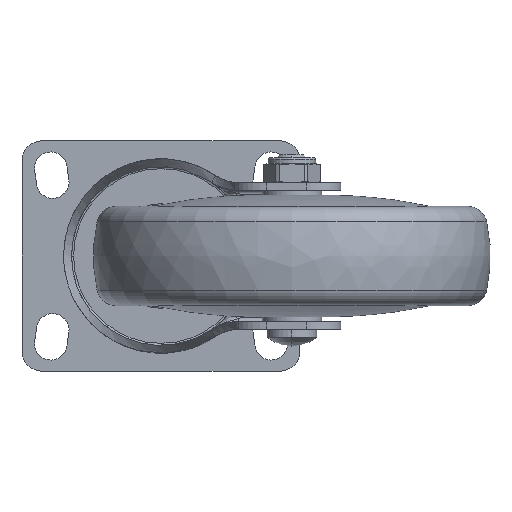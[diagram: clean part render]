
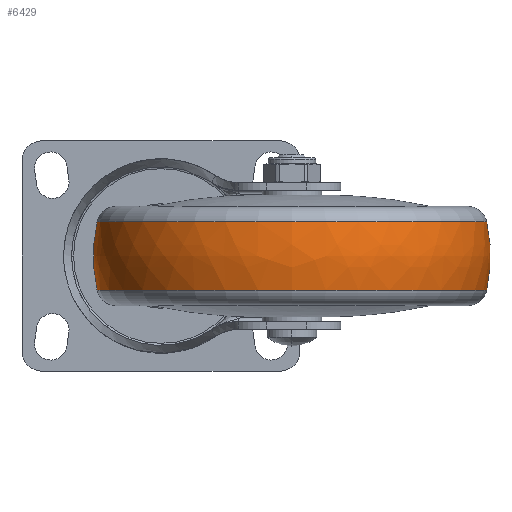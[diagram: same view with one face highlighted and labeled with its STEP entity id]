
A CAD part, front view. The second image highlights one B-rep face of the part: STEP entity #6429.
In plain terms, the highlighted free-form (B-spline) face has degree [3, 3] with [7, 4] control points.
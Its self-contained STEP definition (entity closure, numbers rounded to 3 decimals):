
#4643=CARTESIAN_POINT('',(-59.886,21.377,0.));
#4644=DIRECTION('',(-1.,0.,0.));
#4645=DIRECTION('',(0.,1.,0.));
#4646=AXIS2_PLACEMENT_3D('',#4643,#4644,#4645);
#4648=CARTESIAN_POINT('',(-68.457,31.377,0.));
#4649=DIRECTION('',(0.,0.,1.));
#4650=DIRECTION('',(0.214,0.977,0.));
#4651=AXIS2_PLACEMENT_3D('',#4648,#4649,#4650);
#4658=CARTESIAN_POINT('',(-68.457,11.377,0.));
#4659=DIRECTION('',(0.,0.,-1.));
#4660=DIRECTION('',(0.214,-0.977,0.));
#4661=AXIS2_PLACEMENT_3D('',#4658,#4659,#4660);
#4678=CARTESIAN_POINT('',(-77.029,21.377,0.));
#4679=DIRECTION('',(-1.,0.,0.));
#4680=DIRECTION('',(0.,1.,0.));
#4681=AXIS2_PLACEMENT_3D('',#4678,#4679,#4680);
#6313=CARTESIAN_POINT('',(-59.886,70.448,0.));
#6314=CARTESIAN_POINT('',(-77.029,70.448,0.));
#6315=VERTEX_POINT('',#6313);
#6316=VERTEX_POINT('',#6314);
#6321=CARTESIAN_POINT('',(-59.886,-27.694,
0.));
#6322=CARTESIAN_POINT('',(-77.029,-27.694,
0.));
#6323=VERTEX_POINT('',#6321);
#6324=VERTEX_POINT('',#6322);
#6391=CARTESIAN_POINT('',(-59.548,70.276,3.076));
#6392=CARTESIAN_POINT('',(-65.437,71.618,3.161));
#6393=CARTESIAN_POINT('',(-71.477,71.618,3.161));
#6394=CARTESIAN_POINT('',(-77.366,70.276,3.076));
#6395=CARTESIAN_POINT('',(-59.548,72.169,
-27.016));
#6396=CARTESIAN_POINT('',(-65.437,73.563,
-27.757));
#6397=CARTESIAN_POINT('',(-71.477,73.563,
-27.757));
#6398=CARTESIAN_POINT('',(-77.366,72.169,
-27.016));
#6399=CARTESIAN_POINT('',(-59.548,51.529,
-48.995));
#6400=CARTESIAN_POINT('',(-65.437,52.356,
-50.341));
#6401=CARTESIAN_POINT('',(-71.477,52.356,
-50.341));
#6402=CARTESIAN_POINT('',(-77.366,51.529,
-48.995));
#6403=CARTESIAN_POINT('',(-59.548,21.377,
-48.995));
#6404=CARTESIAN_POINT('',(-65.437,21.377,
-50.341));
#6405=CARTESIAN_POINT('',(-71.477,21.377,
-50.341));
#6406=CARTESIAN_POINT('',(-77.366,21.377,
-48.995));
#6407=CARTESIAN_POINT('',(-59.548,-8.775,
-48.995));
#6408=CARTESIAN_POINT('',(-65.437,-9.603,
-50.341));
#6409=CARTESIAN_POINT('',(-71.477,-9.603,
-50.341));
#6410=CARTESIAN_POINT('',(-77.366,-8.775,
-48.995));
#6411=CARTESIAN_POINT('',(-59.548,-29.415,
-27.016));
#6412=CARTESIAN_POINT('',(-65.437,-30.81,
-27.757));
#6413=CARTESIAN_POINT('',(-71.477,-30.81,
-27.757));
#6414=CARTESIAN_POINT('',(-77.366,-29.415,
-27.016));
#6415=CARTESIAN_POINT('',(-59.548,-27.522,
3.076));
#6416=CARTESIAN_POINT('',(-65.437,-28.864,
3.161));
#6417=CARTESIAN_POINT('',(-71.477,-28.864,
3.161));
#6418=CARTESIAN_POINT('',(-77.366,-27.522,
3.076));
#6419=(BOUNDED_SURFACE()B_SPLINE_SURFACE(3,3,((#6391,#6392,#6393,#6394),(#6395,
#6396,#6397,#6398),(#6399,#6400,#6401,#6402),(#6403,#6404,#6405,#6406),(#6407,
#6408,#6409,#6410),(#6411,#6412,#6413,#6414),(#6415,#6416,#6417,#6418)),
.UNSPECIFIED.,.F.,.F.,.F.)B_SPLINE_SURFACE_WITH_KNOTS((4,3,4),(4,4),(0.,1.,
2.),(0.,1.),.UNSPECIFIED.)GEOMETRIC_REPRESENTATION_ITEM()RATIONAL_B_SPLINE_SURFACE(((1.202,1.182,1.182,1.202),(
0.95,0.934,0.934,0.95),(
0.95,0.934,0.934,0.95),(
1.202,1.182,1.182,1.202),(
0.95,0.934,0.934,0.95),(
0.95,0.934,0.934,0.95),(
1.202,1.182,1.182,1.202)))REPRESENTATION_ITEM('')SURFACE());
#6421=ORIENTED_EDGE('',*,*,#6420,.T.);
#6423=ORIENTED_EDGE('',*,*,#6422,.T.);
#6425=ORIENTED_EDGE('',*,*,#6424,.F.);
#6426=ORIENTED_EDGE('',*,*,#6384,.F.);
#6427=EDGE_LOOP('',(#6421,#6423,#6425,#6426));
#6428=FACE_OUTER_BOUND('',#6427,.F.);
#4647=CIRCLE('',#4646,49.071);
#4652=CIRCLE('',#4651,40.);
#4662=CIRCLE('',#4661,40.);
#4682=CIRCLE('',#4681,49.071);
#6384=EDGE_CURVE('',#6315,#6323,#4647,.T.);
#6420=EDGE_CURVE('',#6315,#6316,#4652,.T.);
#6422=EDGE_CURVE('',#6316,#6324,#4682,.T.);
#6424=EDGE_CURVE('',#6323,#6324,#4662,.T.);
#6429=ADVANCED_FACE('',(#6428),#6419,.T.);
